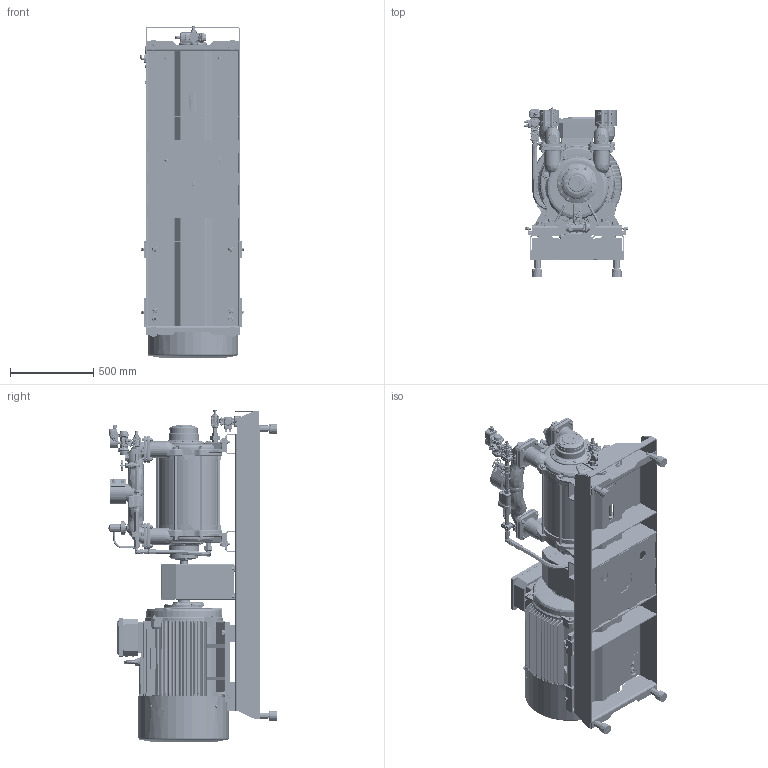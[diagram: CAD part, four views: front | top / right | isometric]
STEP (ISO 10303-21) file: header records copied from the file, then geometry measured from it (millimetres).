
FILE_DESCRIPTION(/* description */ (''),/* implementation_level */ '2;1');
FILE_NAME(/* name */ '1700136A.stp',/* time_stamp */ '2025-08-01T09:35:32+02:00',/* author */ ('JJ'),/* organization */ (''),/* preprocessor_version */ 'ST-DEVELOPER v20',/* originating_system */ 'Autodesk Inventor 2025',/* authorisation */ '');
FILE_SCHEMA (('AUTOMOTIVE_DESIGN { 1 0 10303 214 3 1 1 }'));
Products named in the file (68): 1700136; 946000132; 1632331; 1632270; 910100155; 910000526; 910000517; 1632204; 910100021; 1632205; 1632208; 910100161; 961000522; 910000423; 925000857; 910300370; 910200008; 910000150; 910000508; 1632212; 927000162-388 version 3; 925000873; 925000882; 925000882_part1; 925000882_part2; 925000878; 1619221_Simplify_OMS; 1632214_Simplify; 925000792; 1632216; 944600329; 944600328; 910100191; 910000114; 948000434; 948000434_part2; 948000434_part1; 915000241; 925000725; 925000869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
Assembly tree (183 placements, depth 4):
  1700136
    946000132
    1632331
    1632270
    910100155  x4
    910000526  x4
    910100021  x8
    910000517  x4
    1632204  x4
    1632205  x4
    1632208  x4
    910100161  x4
    961000522  x4
    910000423  x4
    910200008  x4
    925000857  x4
    910300370  x4
    910000150  x4
    910000508  x4
    1632212
      925000873  x2
      925000878  x2
      925000882  x2
        925000882_part1
        925000882_part2
      927000162-388 version 3
    1619221_Simplify_OMS
    1632214_Simplify
    925000792
    1632216
      944600329
      944600328
      910100191  x4
      910000114  x4
      948000434
        948000434_part2
        948000434_part1
      915000241  x2
      925000725
      925000869
      925200610
    1634666_Simplify
    927000134 OM1000 G2
    925100552
    925000865
    925000651
    1632246  x2
    910100125  x4
    910300468  x4
    1634826
      1634811
      922000266
    932400042
    932400057  x2
    932300012
    932300007
    1619307
      1619280  x2
      910300079  x16
      910100013  x16
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Bounding box: 631.85 x 1017.5 x 1998.73 mm (x, y, z)
Volume: 142552530.9 mm3; surface area: 18728926.6 mm2
Topology: 349 solids, 350 shells, 27334 faces, 70140 edges, 44592 vertices
Faces by surface type: plane 12166, cylinder 5782, bspline 5368, cone 2191, torus 1576, sphere 251
Full cylindrical faces by diameter (mm): 0.8 x1, 0.847 x2, 0.857 x2, 1.656 x4, 1.676 x1, 1.7 x4, 1.8 x4, 2 x36, 2.2 x1, 2.5 x2, 3 x4, 3.2 x1, 3.3 x4, 3.6 x4, 4 x4, 4.134 x8, 4.2 x12, 4.3 x8, 4.45 x3, 4.567 x8, 4.917 x13, 5 x16, 5.3 x8, 5.589 x1, 5.6 x16, 6 x34, 6.4 x4, 6.5 x8, 6.647 x2, 6.7 x16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
Entity records: 1122867 total; most frequent: CARTESIAN_POINT 611000, ORIENTED_EDGE 108396, DIRECTION 93558, EDGE_CURVE 54198, VERTEX_POINT 34341, AXIS2_PLACEMENT_3D 33329, LINE 26900, VECTOR 26900
